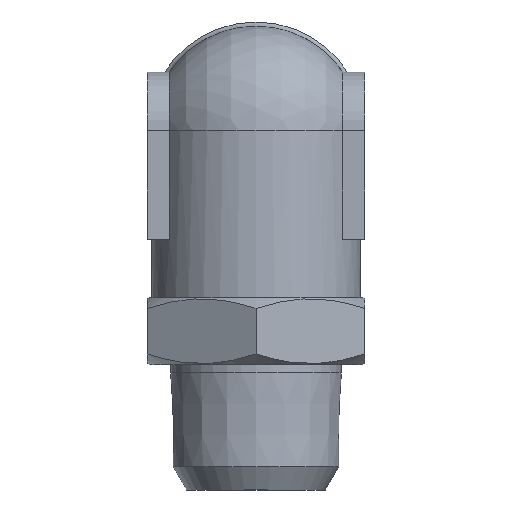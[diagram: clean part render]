
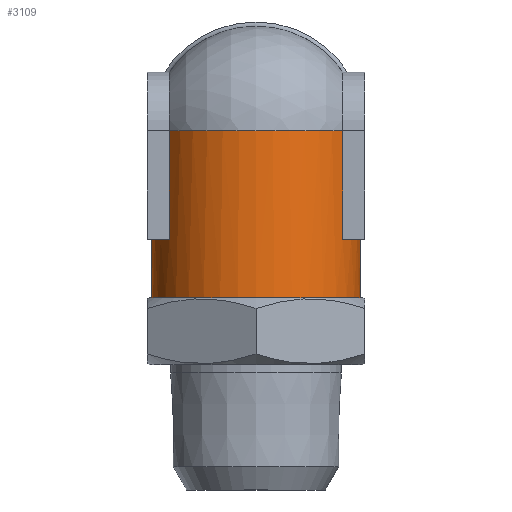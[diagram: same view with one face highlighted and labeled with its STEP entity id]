
A CAD part, left-side view. The second image highlights one B-rep face of the part: STEP entity #3109.
In plain terms, the highlighted cylindrical face has radius 6.25 mm (diameter 12.5 mm), a full revolution.
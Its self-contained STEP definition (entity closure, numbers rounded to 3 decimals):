
#1273=VECTOR('',#2122,1.);
#1274=VECTOR('',#2125,1.);
#1275=VECTOR('',#2128,1.);
#1276=VECTOR('',#2131,1.);
#1313=LINE('',#2477,#1273);
#1314=LINE('',#2481,#1274);
#1315=LINE('',#2485,#1275);
#1316=LINE('',#2488,#1276);
#1353=ELLIPSE('',#2933,8.839,6.25);
#1354=ORIENTED_EDGE('',*,*,#1738,.F.);
#1355=ORIENTED_EDGE('',*,*,#1739,.F.);
#1356=ORIENTED_EDGE('',*,*,#1740,.F.);
#1357=ORIENTED_EDGE('',*,*,#1741,.F.);
#1358=ORIENTED_EDGE('',*,*,#1742,.F.);
#1359=ORIENTED_EDGE('',*,*,#1743,.T.);
#1360=ORIENTED_EDGE('',*,*,#1744,.F.);
#1361=ORIENTED_EDGE('',*,*,#1745,.F.);
#1362=ORIENTED_EDGE('',*,*,#1746,.F.);
#1584=CIRCLE('',#2932,6.25);
#1585=CIRCLE('',#2934,6.25);
#1586=CIRCLE('',#2935,6.25);
#1587=CIRCLE('',#2936,6.25);
#1645=VERTEX_POINT('',#2471);
#1646=VERTEX_POINT('',#2473);
#1647=VERTEX_POINT('',#2474);
#1648=VERTEX_POINT('',#2476);
#1649=VERTEX_POINT('',#2478);
#1650=VERTEX_POINT('',#2480);
#1651=VERTEX_POINT('',#2482);
#1652=VERTEX_POINT('',#2484);
#1653=VERTEX_POINT('',#2486);
#1738=EDGE_CURVE('',#1645,#1645,#1584,.T.);
#1739=EDGE_CURVE('',#1646,#1647,#1353,.T.);
#1740=EDGE_CURVE('',#1648,#1646,#1313,.T.);
#1741=EDGE_CURVE('',#1649,#1648,#1585,.T.);
#1742=EDGE_CURVE('',#1650,#1649,#1314,.T.);
#1743=EDGE_CURVE('',#1650,#1651,#1586,.T.);
#1744=EDGE_CURVE('',#1652,#1651,#1315,.T.);
#1745=EDGE_CURVE('',#1653,#1652,#1587,.T.);
#1746=EDGE_CURVE('',#1647,#1653,#1316,.T.);
#1853=EDGE_LOOP('',(#1354));
#1854=EDGE_LOOP('',(#1355,#1356,#1357,#1358,#1359,#1360,#1361,#1362));
#1984=FACE_BOUND('',#1853,.T.);
#1985=FACE_BOUND('',#1854,.T.);
#2116=DIRECTION('',(0.,1.,0.));
#2117=DIRECTION('',(1.,0.,0.));
#2118=DIRECTION('',(0.,-1.,0.));
#2119=DIRECTION('',(0.,0.,-6.25));
#2120=DIRECTION('',(0.707,0.707,0.));
#2121=DIRECTION('',(0.707,-0.707,0.));
#2122=DIRECTION('',(0.,3.,0.));
#2123=DIRECTION('',(0.,1.,0.));
#2124=DIRECTION('',(0.,0.,-6.25));
#2125=DIRECTION('',(0.,-6.5,0.));
#2126=DIRECTION('',(0.,-1.,0.));
#2127=DIRECTION('',(0.,0.,-6.25));
#2128=DIRECTION('',(0.,6.5,0.));
#2129=DIRECTION('',(0.,1.,0.));
#2130=DIRECTION('',(0.,0.,-6.25));
#2131=DIRECTION('',(0.,-3.,0.));
#2470=CARTESIAN_POINT('',(1.572,-12.553,0.));
#2471=CARTESIAN_POINT('',(7.822,-12.553,0.));
#2472=CARTESIAN_POINT('',(1.572,-12.553,0.));
#2473=CARTESIAN_POINT('',(5.072,-6.053,5.178));
#2474=CARTESIAN_POINT('',(5.072,-6.053,-5.178));
#2475=CARTESIAN_POINT('',(1.572,-2.553,0.));
#2476=CARTESIAN_POINT('',(5.072,-9.053,5.178));
#2477=CARTESIAN_POINT('',(5.072,-9.053,5.178));
#2478=CARTESIAN_POINT('',(-1.928,-9.053,5.178));
#2479=CARTESIAN_POINT('',(1.572,-9.053,0.));
#2480=CARTESIAN_POINT('',(-1.928,-2.553,5.178));
#2481=CARTESIAN_POINT('',(-1.928,-2.553,5.178));
#2482=CARTESIAN_POINT('',(-1.928,-2.553,-5.178));
#2483=CARTESIAN_POINT('',(1.572,-2.553,0.));
#2484=CARTESIAN_POINT('',(-1.928,-9.053,-5.178));
#2485=CARTESIAN_POINT('',(-1.928,-9.053,-5.178));
#2486=CARTESIAN_POINT('',(5.072,-9.053,-5.178));
#2487=CARTESIAN_POINT('',(1.572,-9.053,0.));
#2488=CARTESIAN_POINT('',(5.072,-6.053,-5.178));
#2931=AXIS2_PLACEMENT_3D('',#2470,#2116,#2117);
#2932=AXIS2_PLACEMENT_3D('',#2472,#2118,#2119);
#2933=AXIS2_PLACEMENT_3D('',#2475,#2120,#2121);
#2934=AXIS2_PLACEMENT_3D('',#2479,#2123,#2124);
#2935=AXIS2_PLACEMENT_3D('',#2483,#2126,#2127);
#2936=AXIS2_PLACEMENT_3D('',#2487,#2129,#2130);
#3088=CYLINDRICAL_SURFACE('',#2931,6.25);
#3109=ADVANCED_FACE('',(#1984,#1985),#3088,.T.);
